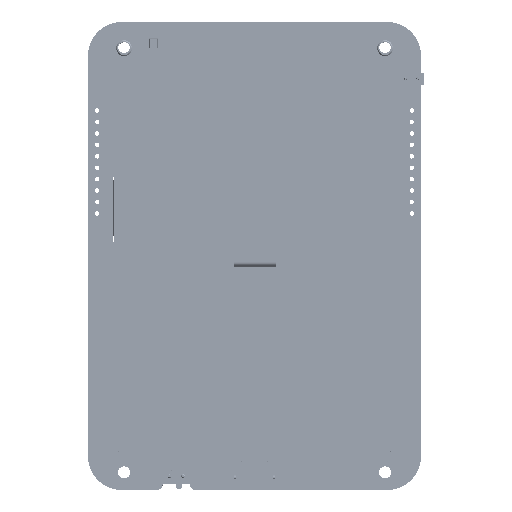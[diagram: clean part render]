
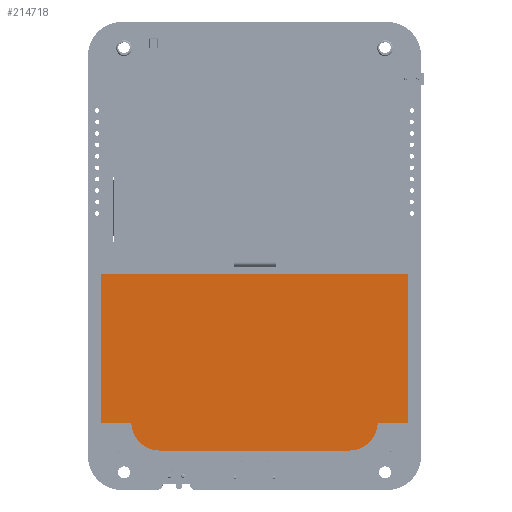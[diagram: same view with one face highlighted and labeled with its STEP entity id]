
A CAD part, top view. The second image highlights one B-rep face of the part: STEP entity #214718.
In plain terms, the highlighted planar face has unit normal (0, 0, 1).
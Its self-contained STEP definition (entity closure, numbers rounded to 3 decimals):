
#10218=PLANE('',#231504);
#20924=FACE_OUTER_BOUND('',#32427,.T.);
#32427=EDGE_LOOP('',(#192486,#192487,#192488,#192489,#192490,#192491,#192492,
#192493,#192494,#192495,#192496,#192497,#192498,#192499,#192500,#192501,
#192502,#192503));
#55341=LINE('',#374476,#79667);
#55345=LINE('',#374485,#79671);
#55348=LINE('',#374493,#79674);
#55351=LINE('',#374499,#79677);
#55353=LINE('',#374504,#79679);
#55356=LINE('',#374510,#79682);
#55359=LINE('',#374516,#79685);
#55362=LINE('',#374522,#79688);
#55365=LINE('',#374528,#79691);
#55368=LINE('',#374534,#79694);
#55371=LINE('',#374540,#79697);
#55374=LINE('',#374546,#79700);
#55377=LINE('',#374552,#79703);
#55380=LINE('',#374558,#79706);
#55383=LINE('',#374564,#79709);
#55386=LINE('',#374568,#79712);
#79667=VECTOR('',#284494,1.);
#79671=VECTOR('',#284504,1.);
#79674=VECTOR('',#284513,1.);
#79677=VECTOR('',#284518,1.);
#79679=VECTOR('',#284522,1.);
#79682=VECTOR('',#284527,1.);
#79685=VECTOR('',#284532,1.);
#79688=VECTOR('',#284537,1.);
#79691=VECTOR('',#284542,1.);
#79694=VECTOR('',#284547,1.);
#79697=VECTOR('',#284552,1.);
#79700=VECTOR('',#284557,1.);
#79703=VECTOR('',#284562,1.);
#79706=VECTOR('',#284567,1.);
#79709=VECTOR('',#284572,1.);
#79712=VECTOR('',#284577,1.);
#87440=CIRCLE('',#231486,6.315);
#87441=CIRCLE('',#231489,6.315);
#105611=VERTEX_POINT('',#374473);
#105612=VERTEX_POINT('',#374475);
#105613=VERTEX_POINT('',#374479);
#105614=VERTEX_POINT('',#374483);
#105615=VERTEX_POINT('',#374487);
#105616=VERTEX_POINT('',#374491);
#105618=VERTEX_POINT('',#374497);
#105620=VERTEX_POINT('',#374503);
#105622=VERTEX_POINT('',#374509);
#105624=VERTEX_POINT('',#374515);
#105626=VERTEX_POINT('',#374521);
#105628=VERTEX_POINT('',#374527);
#105630=VERTEX_POINT('',#374533);
#105632=VERTEX_POINT('',#374539);
#105634=VERTEX_POINT('',#374545);
#105636=VERTEX_POINT('',#374551);
#105638=VERTEX_POINT('',#374557);
#105640=VERTEX_POINT('',#374563);
#134906=EDGE_CURVE('',#105612,#105611,#55341,.T.);
#134909=EDGE_CURVE('',#105611,#105613,#87440,.T.);
#134911=EDGE_CURVE('',#105613,#105614,#55345,.T.);
#134913=EDGE_CURVE('',#105614,#105615,#87441,.T.);
#134915=EDGE_CURVE('',#105615,#105616,#55348,.T.);
#134918=EDGE_CURVE('',#105616,#105618,#55351,.T.);
#134920=EDGE_CURVE('',#105620,#105612,#55353,.T.);
#134923=EDGE_CURVE('',#105622,#105620,#55356,.T.);
#134926=EDGE_CURVE('',#105624,#105622,#55359,.T.);
#134929=EDGE_CURVE('',#105626,#105624,#55362,.T.);
#134932=EDGE_CURVE('',#105628,#105626,#55365,.T.);
#134935=EDGE_CURVE('',#105630,#105628,#55368,.T.);
#134938=EDGE_CURVE('',#105632,#105630,#55371,.T.);
#134941=EDGE_CURVE('',#105634,#105632,#55374,.T.);
#134944=EDGE_CURVE('',#105636,#105634,#55377,.T.);
#134947=EDGE_CURVE('',#105638,#105636,#55380,.T.);
#134950=EDGE_CURVE('',#105640,#105638,#55383,.T.);
#134953=EDGE_CURVE('',#105618,#105640,#55386,.T.);
#192486=ORIENTED_EDGE('',*,*,#134953,.T.);
#192487=ORIENTED_EDGE('',*,*,#134950,.T.);
#192488=ORIENTED_EDGE('',*,*,#134947,.T.);
#192489=ORIENTED_EDGE('',*,*,#134944,.T.);
#192490=ORIENTED_EDGE('',*,*,#134941,.T.);
#192491=ORIENTED_EDGE('',*,*,#134938,.T.);
#192492=ORIENTED_EDGE('',*,*,#134935,.T.);
#192493=ORIENTED_EDGE('',*,*,#134932,.T.);
#192494=ORIENTED_EDGE('',*,*,#134929,.T.);
#192495=ORIENTED_EDGE('',*,*,#134926,.T.);
#192496=ORIENTED_EDGE('',*,*,#134923,.T.);
#192497=ORIENTED_EDGE('',*,*,#134920,.T.);
#192498=ORIENTED_EDGE('',*,*,#134906,.T.);
#192499=ORIENTED_EDGE('',*,*,#134909,.T.);
#192500=ORIENTED_EDGE('',*,*,#134911,.T.);
#192501=ORIENTED_EDGE('',*,*,#134913,.T.);
#192502=ORIENTED_EDGE('',*,*,#134915,.T.);
#192503=ORIENTED_EDGE('',*,*,#134918,.T.);
#214718=ADVANCED_FACE('',(#20924),#10218,.T.);
#231486=AXIS2_PLACEMENT_3D('',#374481,#284499,#284500);
#231489=AXIS2_PLACEMENT_3D('',#374489,#284508,#284509);
#231504=AXIS2_PLACEMENT_3D('',#374569,#284578,#284579);
#284494=DIRECTION('',(1.,0.,0.));
#284499=DIRECTION('center_axis',(0.,0.,1.));
#284500=DIRECTION('ref_axis',(-0.999,-0.034,0.));
#284504=DIRECTION('',(1.,0.,0.));
#284508=DIRECTION('center_axis',(0.,0.,1.));
#284509=DIRECTION('ref_axis',(-0.021,-1.,0.));
#284513=DIRECTION('',(1.,0.,0.));
#284518=DIRECTION('',(0.,1.,0.));
#284522=DIRECTION('',(0.,-1.,0.));
#284527=DIRECTION('',(-0.152,-0.988,0.));
#284532=DIRECTION('',(0.152,-0.988,0.));
#284537=DIRECTION('',(-0.537,-0.844,0.));
#284542=DIRECTION('',(-0.156,-0.988,0.));
#284547=DIRECTION('',(-0.647,-0.763,0.));
#284552=DIRECTION('',(-0.493,-0.87,0.));
#284557=DIRECTION('',(-0.941,-0.339,0.));
#284562=DIRECTION('',(-0.648,-0.762,0.));
#284567=DIRECTION('',(-0.986,-0.169,0.));
#284572=DIRECTION('',(-0.936,-0.351,0.));
#284577=DIRECTION('',(-1.,0.,0.));
#284578=DIRECTION('center_axis',(0.,0.,1.));
#284579=DIRECTION('ref_axis',(1.,0.,0.));
#374473=CARTESIAN_POINT('',(-27.386,-20.91,3.5));
#374475=CARTESIAN_POINT('',(-34.174,-20.91,3.5));
#374476=CARTESIAN_POINT('',(-27.386,-20.91,3.5));
#374479=CARTESIAN_POINT('',(-20.939,-27.009,3.5));
#374481=CARTESIAN_POINT('Origin',(-21.074,-20.696,3.5));
#374483=CARTESIAN_POINT('',(20.939,-27.009,3.5));
#374485=CARTESIAN_POINT('',(-20.939,-27.009,3.5));
#374487=CARTESIAN_POINT('',(27.386,-20.91,3.5));
#374489=CARTESIAN_POINT('Origin',(21.074,-20.696,3.5));
#374491=CARTESIAN_POINT('',(34.175,-20.91,3.5));
#374493=CARTESIAN_POINT('',(27.386,-20.91,3.5));
#374497=CARTESIAN_POINT('',(34.175,12.125,3.5));
#374499=CARTESIAN_POINT('',(34.175,12.051,3.5));
#374503=CARTESIAN_POINT('',(-34.174,12.051,3.5));
#374504=CARTESIAN_POINT('',(-34.174,-21.401,3.5));
#374509=CARTESIAN_POINT('',(-34.173,12.06,3.5));
#374510=CARTESIAN_POINT('',(-34.173,12.06,3.5));
#374515=CARTESIAN_POINT('',(-34.173,12.064,3.5));
#374516=CARTESIAN_POINT('',(-34.173,12.064,3.5));
#374521=CARTESIAN_POINT('',(-34.171,12.066,3.5));
#374522=CARTESIAN_POINT('',(-34.171,12.066,3.5));
#374527=CARTESIAN_POINT('',(-34.17,12.076,3.5));
#374528=CARTESIAN_POINT('',(-34.17,12.076,3.5));
#374533=CARTESIAN_POINT('',(-34.157,12.091,3.5));
#374534=CARTESIAN_POINT('',(-34.17,12.076,3.5));
#374539=CARTESIAN_POINT('',(-34.148,12.108,3.5));
#374540=CARTESIAN_POINT('',(-34.157,12.091,3.5));
#374545=CARTESIAN_POINT('',(-34.142,12.11,3.5));
#374546=CARTESIAN_POINT('',(-34.142,12.11,3.5));
#374551=CARTESIAN_POINT('',(-34.137,12.115,3.5));
#374552=CARTESIAN_POINT('',(-34.137,12.115,3.5));
#374557=CARTESIAN_POINT('',(-34.118,12.118,3.5));
#374558=CARTESIAN_POINT('',(-34.137,12.115,3.5));
#374563=CARTESIAN_POINT('',(-34.1,12.125,3.5));
#374564=CARTESIAN_POINT('',(-34.118,12.118,3.5));
#374568=CARTESIAN_POINT('',(34.101,12.125,3.5));
#374569=CARTESIAN_POINT('Origin',(0.,-7.443,3.5));
